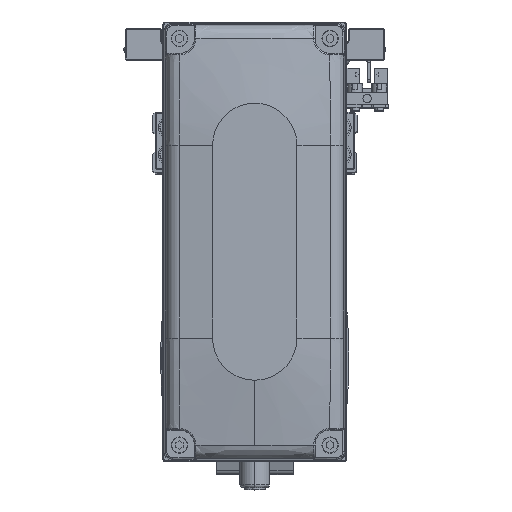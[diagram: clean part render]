
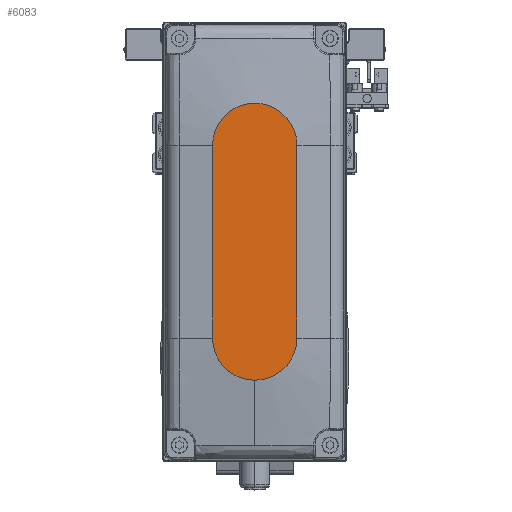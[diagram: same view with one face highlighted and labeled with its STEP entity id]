
A CAD part, top view. The second image highlights one B-rep face of the part: STEP entity #6083.
In plain terms, the highlighted planar face has unit normal (0, 0, 1).
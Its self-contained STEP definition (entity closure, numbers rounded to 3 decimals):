
#1078 = VERTEX_POINT ( 'NONE', #15828 ) ;
#1486 = CARTESIAN_POINT ( 'NONE',  ( 32., -14., 35. ) ) ;
#2039 = CARTESIAN_POINT ( 'NONE',  ( 0., 0., 35. ) ) ;
#3228 = ORIENTED_EDGE ( 'NONE', *, *, #25357, .T. ) ;
#3298 = EDGE_CURVE ( 'NONE', #43351, #6957, #23693, .T. ) ;
#4381 = AXIS2_PLACEMENT_3D ( 'NONE', #29570, #43218, #12596 ) ;
#5785 = CARTESIAN_POINT ( 'NONE',  ( 32., 0., 35. ) ) ;
#6083 = ADVANCED_FACE ( 'NONE', ( #19041 ), #32675, .T. ) ;
#6676 = DIRECTION ( 'NONE',  ( 1., 0., 0. ) ) ;
#6957 = VERTEX_POINT ( 'NONE', #12856 ) ;
#7092 = ORIENTED_EDGE ( 'NONE', *, *, #38935, .T. ) ;
#9172 = CIRCLE ( 'NONE', #34137, 14. ) ;
#11104 = ORIENTED_EDGE ( 'NONE', *, *, #3298, .T. ) ;
#12596 = DIRECTION ( 'NONE',  ( 1., 0., 0. ) ) ;
#12856 = CARTESIAN_POINT ( 'NONE',  ( 32., 14., 35. ) ) ;
#14078 = CIRCLE ( 'NONE', #39055, 14. ) ;
#15103 = LINE ( 'NONE', #28719, #29737 ) ;
#15700 = DIRECTION ( 'NONE',  ( 0., 0., 1. ) ) ;
#15828 = CARTESIAN_POINT ( 'NONE',  ( -32., 14., 35. ) ) ;
#16379 = CARTESIAN_POINT ( 'NONE',  ( -32., 0., 35. ) ) ;
#16896 = EDGE_CURVE ( 'NONE', #24400, #43351, #9172, .T. ) ;
#17919 = EDGE_LOOP ( 'NONE', ( #26650, #3228, #7092, #21326, #11104 ) ) ;
#19041 = FACE_OUTER_BOUND ( 'NONE', #17919, .T. ) ;
#19412 = DIRECTION ( 'NONE',  ( 0., 0., 1. ) ) ;
#21326 = ORIENTED_EDGE ( 'NONE', *, *, #16896, .T. ) ;
#22508 = CARTESIAN_POINT ( 'NONE',  ( -32., -14., 35. ) ) ;
#23693 = CIRCLE ( 'NONE', #4381, 14. ) ;
#23697 = LINE ( 'NONE', #37312, #36691 ) ;
#24400 = VERTEX_POINT ( 'NONE', #1486 ) ;
#24778 = EDGE_CURVE ( 'NONE', #6957, #1078, #15103, .T. ) ;
#25357 = EDGE_CURVE ( 'NONE', #1078, #32346, #14078, .T. ) ;
#26650 = ORIENTED_EDGE ( 'NONE', *, *, #24778, .T. ) ;
#28719 = CARTESIAN_POINT ( 'NONE',  ( -32., 14., 35. ) ) ;
#29330 = DIRECTION ( 'NONE',  ( 1., 0., 0. ) ) ;
#29369 = CARTESIAN_POINT ( 'NONE',  ( 46., 0., 35. ) ) ;
#29570 = CARTESIAN_POINT ( 'NONE',  ( 32., 0., 35. ) ) ;
#29737 = VECTOR ( 'NONE', #42360, 1000. ) ;
#30009 = DIRECTION ( 'NONE',  ( 0., 0., 1. ) ) ;
#32346 = VERTEX_POINT ( 'NONE', #22508 ) ;
#32675 = PLANE ( 'NONE',  #33812 ) ;
#33036 = DIRECTION ( 'NONE',  ( 1., 0., 0. ) ) ;
#33812 = AXIS2_PLACEMENT_3D ( 'NONE', #2039, #15700, #29330 ) ;
#34137 = AXIS2_PLACEMENT_3D ( 'NONE', #5785, #19412, #33036 ) ;
#36691 = VECTOR ( 'NONE', #6676, 1000. ) ;
#37312 = CARTESIAN_POINT ( 'NONE',  ( -32., -14., 35. ) ) ;
#38935 = EDGE_CURVE ( 'NONE', #32346, #24400, #23697, .T. ) ;
#39055 = AXIS2_PLACEMENT_3D ( 'NONE', #16379, #30009, #43646 ) ;
#42360 = DIRECTION ( 'NONE',  ( -1., 0., 0. ) ) ;
#43218 = DIRECTION ( 'NONE',  ( 0., 0., 1. ) ) ;
#43351 = VERTEX_POINT ( 'NONE', #29369 ) ;
#43646 = DIRECTION ( 'NONE',  ( 1., 0., 0. ) ) ;
